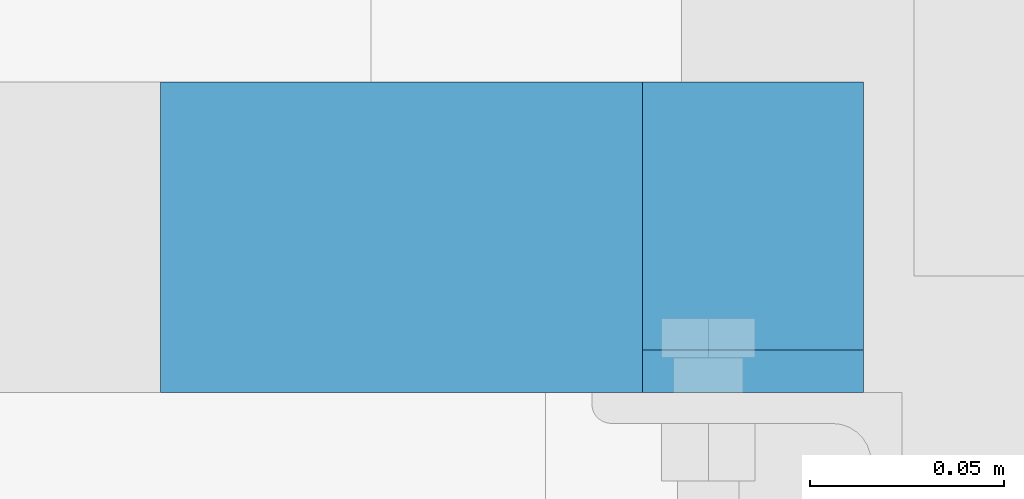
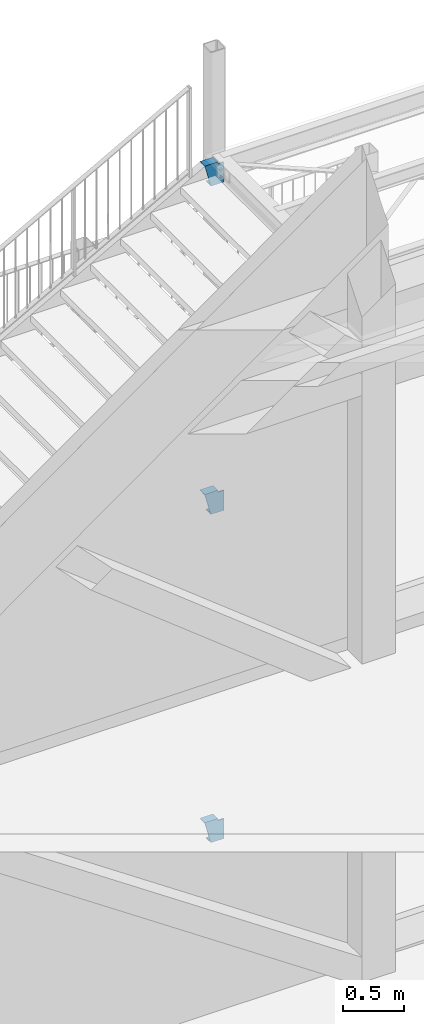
# One storey, part 54 of 78: 3 beams, 3 elements without a shape of their own.
"""IFC2X3 building model written with IfcOpenShell, lengths in millimetres."""

from ifc_helpers import new_model, si_unit, frame, origin_with_axes, origin_2d_with_axis, place, context, subcontext, project, spatial, polyline, u_section, outline, extrude, boolean, halfspace, material, type_object, element, aggregate, save


model = new_model("IFC2X3")

# Units and contexts
model_context = context("Model", 3, precision=1e-05, world=origin_with_axes())
body_context = subcontext(model_context, "Body", "Model", "MODEL_VIEW")
ifc_project = project(units=[si_unit("LENGTHUNIT", "METRE", prefix="MILLI"), si_unit("AREAUNIT", "SQUARE_METRE"), si_unit("VOLUMEUNIT", "CUBIC_METRE"), si_unit("MASSUNIT", "GRAM", prefix="KILO"), si_unit("TIMEUNIT", "SECOND"), si_unit("PLANEANGLEUNIT", "RADIAN"), si_unit("SOLIDANGLEUNIT", "STERADIAN"), si_unit("THERMODYNAMICTEMPERATUREUNIT", "DEGREE_CELSIUS"), si_unit("LUMINOUSINTENSITYUNIT", "LUMEN")], contexts=[model_context])

# Site, building, storey
site_placement = place(None, origin_with_axes())
site = spatial("IfcSite", under=ifc_project, at=site_placement, Name="Site", CompositionType="ELEMENT")
building_placement = place(site_placement, origin_with_axes())
building = spatial("IfcBuilding", under=site, at=building_placement, Name="Undefined", CompositionType="ELEMENT")
storey_placement = place(building_placement, origin_with_axes())
storey = spatial("IfcBuildingStorey", under=building, at=storey_placement, Name="Undefined", CompositionType="ELEMENT", Elevation=0.0)

# Assembly, beam
assembly_1_placement = place(storey_placement, origin_with_axes())
assembly_1 = element("IfcElementAssembly", 1, at=assembly_1_placement, inside=storey, AssemblyPlace="NOTDEFINED", PredefinedType="RIGID_FRAME")
ifc_material = material(Name="STEEL/S235JR")
beam_type = type_object("IfcBeamType", Name="UPN220", PredefinedType="NOTDEFINED")
beam_1_placement = place(assembly_1_placement, frame((1422.57000012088, 30602.9999999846, 153260.040000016), z_axis=(0.0, 0.0, 1.0), x_axis=(-1.0, 0.0, 0.0)))
beam_1 = element("IfcBeam", 2, at=beam_1_placement, type_object=beam_type, material=ifc_material, Name="LIMON", ObjectType="UPN220", context=body_context, shape_type="CSG", body=[
    boolean("DIFFERENCE", boolean("DIFFERENCE", boolean("DIFFERENCE", extrude(u_section(Depth=220.0, FlangeWidth=80.0, WebThickness=9.0, FlangeThickness=12.5, FilletRadius=12.5, EdgeRadius=6.5, FlangeSlope=0.0798299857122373, at=origin_2d_with_axis()), frame((118.569440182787, 0.0, 0.0), z_axis=(-1.0, 0.0, 0.0), x_axis=(0.0, -1.0, 0.0)), (0.0, 0.0, 1.0), 210.13), extrude(outline(polyline([(0.0, 0.0), (66.9000000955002, 0.0), (66.9000000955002, 29.80000029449), (0.0, 29.80000029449), (0.0, 0.0)])), frame((-72.8999999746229, 50.0, 90.1999997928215), z_axis=(0.0, -1.0, 0.0), x_axis=(1.0, 0.0, 0.0)), (0.0, 0.0, 1.0), 100.0)), halfspace(frame((118.285714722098, -39.9999998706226, 110.000000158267), z_axis=(-0.968308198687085, 0.0, 0.249758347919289), x_axis=(0.0, -1.0, 0.0)), True)), halfspace(frame((-62.8999999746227, 0.0, 209.999999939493), z_axis=(-1.0, 0.0, 0.0), x_axis=(0.0, -1.0, 0.0)), False)),
])
aggregate(assembly_1, [beam_1])

assembly_2_placement = place(storey_placement, origin_with_axes())
assembly_2 = element("IfcElementAssembly", 3, at=assembly_2_placement, inside=storey, AssemblyPlace="NOTDEFINED", PredefinedType="RIGID_FRAME")
beam_2_placement = place(assembly_2_placement, frame((1422.57000012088, 30602.9999999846, 156560.040000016), z_axis=(0.0, 0.0, 1.0), x_axis=(-1.0, 0.0, 0.0)))
beam_2 = element("IfcBeam", 4, at=beam_2_placement, type_object=beam_type, material=ifc_material, Name="LIMON", ObjectType="UPN220", context=body_context, shape_type="CSG", body=[
    boolean("DIFFERENCE", boolean("DIFFERENCE", boolean("DIFFERENCE", extrude(u_section(Depth=220.0, FlangeWidth=80.0, WebThickness=9.0, FlangeThickness=12.5, FilletRadius=12.5, EdgeRadius=6.5, FlangeSlope=0.0798299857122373, at=origin_2d_with_axis()), frame((118.569440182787, 0.0, 0.0), z_axis=(-1.0, 0.0, 0.0), x_axis=(0.0, -1.0, 0.0)), (0.0, 0.0, 1.0), 210.13), extrude(outline(polyline([(0.0, 0.0), (66.9000000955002, 0.0), (66.9000000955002, 29.80000029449), (0.0, 29.80000029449), (0.0, 0.0)])), frame((-72.8999999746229, 50.0, 90.1999997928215), z_axis=(0.0, -1.0, 0.0), x_axis=(1.0, 0.0, 0.0)), (0.0, 0.0, 1.0), 100.0)), halfspace(frame((118.285714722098, -39.9999998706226, 110.000000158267), z_axis=(-0.968308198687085, 0.0, 0.249758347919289), x_axis=(0.0, -1.0, 0.0)), True)), halfspace(frame((-62.8999999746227, 0.0, 209.999999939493), z_axis=(-1.0, 0.0, 0.0), x_axis=(0.0, -1.0, 0.0)), False)),
])
aggregate(assembly_2, [beam_2])

assembly_3_placement = place(storey_placement, origin_with_axes())
assembly_3 = element("IfcElementAssembly", 5, at=assembly_3_placement, inside=storey, AssemblyPlace="NOTDEFINED", PredefinedType="RIGID_FRAME")
beam_3_placement = place(assembly_3_placement, frame((1422.57000012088, 30602.9999999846, 159860.040000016), z_axis=(0.0, 0.0, 1.0), x_axis=(-1.0, 0.0, 0.0)))
beam_3 = element("IfcBeam", 6, at=beam_3_placement, type_object=beam_type, material=ifc_material, Name="LIMON", ObjectType="UPN220", context=body_context, shape_type="CSG", body=[
    boolean("DIFFERENCE", boolean("DIFFERENCE", boolean("DIFFERENCE", extrude(u_section(Depth=220.0, FlangeWidth=80.0, WebThickness=9.0, FlangeThickness=12.5, FilletRadius=12.5, EdgeRadius=6.5, FlangeSlope=0.0798299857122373, at=origin_2d_with_axis()), frame((118.569440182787, 0.0, 0.0), z_axis=(-1.0, 0.0, 0.0), x_axis=(0.0, -1.0, 0.0)), (0.0, 0.0, 1.0), 210.13), extrude(outline(polyline([(0.0, 0.0), (66.9000000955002, 0.0), (66.9000000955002, 29.80000029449), (0.0, 29.80000029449), (0.0, 0.0)])), frame((-72.8999999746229, 50.0, 90.1999997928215), z_axis=(0.0, -1.0, 0.0), x_axis=(1.0, 0.0, 0.0)), (0.0, 0.0, 1.0), 100.0)), halfspace(frame((118.285714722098, -39.9999998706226, 110.000000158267), z_axis=(-0.968308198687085, 0.0, 0.249758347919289), x_axis=(0.0, -1.0, 0.0)), True)), halfspace(frame((-62.8999999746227, 0.0, 209.999999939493), z_axis=(-1.0, 0.0, 0.0), x_axis=(0.0, -1.0, 0.0)), False)),
])
aggregate(assembly_3, [beam_3])

save(model, "model.ifc")
